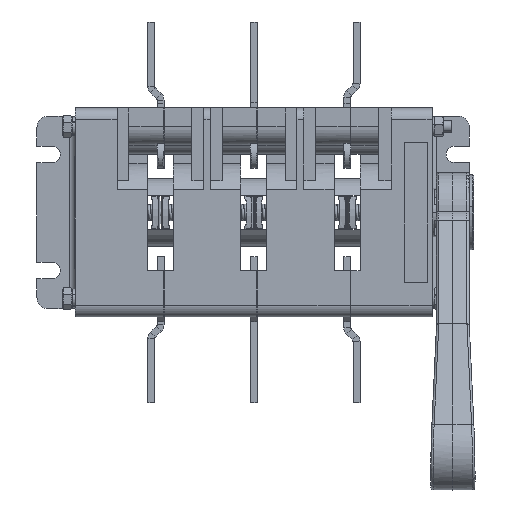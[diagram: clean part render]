
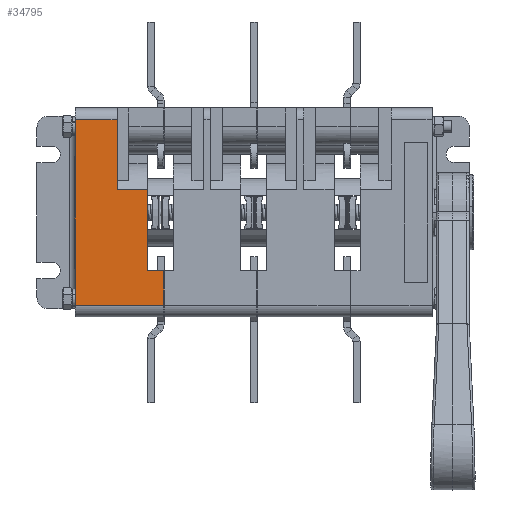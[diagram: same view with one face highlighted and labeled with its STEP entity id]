
A CAD part, front view. The second image highlights one B-rep face of the part: STEP entity #34795.
In plain terms, the highlighted planar face has unit normal (0, -1, 0) as drawn and (0, 1, 0) by its records, which use the part's own axes.
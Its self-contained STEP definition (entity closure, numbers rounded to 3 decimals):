
#428 = CARTESIAN_POINT ( 'NONE',  ( -40., 21., 5. ) ) ;
#1864 = VECTOR ( 'NONE', #20147, 1000. ) ;
#2075 = FACE_OUTER_BOUND ( 'NONE', #20584, .T. ) ;
#3616 = ORIENTED_EDGE ( 'NONE', *, *, #14981, .F. ) ;
#3878 = VECTOR ( 'NONE', #4475, 1000. ) ;
#4475 = DIRECTION ( 'NONE',  ( 0., 0., 1. ) ) ;
#4492 = EDGE_CURVE ( 'NONE', #19514, #13223, #36776, .T. ) ;
#5919 = EDGE_CURVE ( 'NONE', #19514, #40641, #12836, .T. ) ;
#6540 = EDGE_CURVE ( 'NONE', #8582, #10431, #7492, .T. ) ;
#6694 = CARTESIAN_POINT ( 'NONE',  ( 25., 21., -15. ) ) ;
#7004 = VECTOR ( 'NONE', #21099, 1000. ) ;
#7145 = LINE ( 'NONE', #32170, #22436 ) ;
#7492 = LINE ( 'NONE', #42859, #7004 ) ;
#8406 = DIRECTION ( 'NONE',  ( -1., 0., 0. ) ) ;
#8551 = VERTEX_POINT ( 'NONE', #24191 ) ;
#8582 = VERTEX_POINT ( 'NONE', #428 ) ;
#8664 = EDGE_CURVE ( 'NONE', #13219, #43694, #9323, .T. ) ;
#9303 = EDGE_CURVE ( 'NONE', #8551, #43694, #40518, .T. ) ;
#9323 = LINE ( 'NONE', #31473, #25170 ) ;
#9412 = CARTESIAN_POINT ( 'NONE',  ( 25., 21., -8. ) ) ;
#10431 = VERTEX_POINT ( 'NONE', #38340 ) ;
#11341 = CARTESIAN_POINT ( 'NONE',  ( -45., 21., 23. ) ) ;
#12337 = CARTESIAN_POINT ( 'NONE',  ( 40., 21., -15. ) ) ;
#12432 = CARTESIAN_POINT ( 'NONE',  ( 25., 21., -8. ) ) ;
#12589 = DIRECTION ( 'NONE',  ( 0., -1., 0. ) ) ;
#12836 = LINE ( 'NONE', #24691, #3878 ) ;
#12942 = LINE ( 'NONE', #6694, #1864 ) ;
#13219 = VERTEX_POINT ( 'NONE', #26422 ) ;
#13223 = VERTEX_POINT ( 'NONE', #9412 ) ;
#14268 = EDGE_CURVE ( 'NONE', #13219, #10431, #14876, .T. ) ;
#14876 = LINE ( 'NONE', #11341, #29208 ) ;
#14981 = EDGE_CURVE ( 'NONE', #8582, #40641, #7145, .T. ) ;
#18321 = AXIS2_PLACEMENT_3D ( 'NONE', #33177, #12589, #36588 ) ;
#19514 = VERTEX_POINT ( 'NONE', #43170 ) ;
#19885 = DIRECTION ( 'NONE',  ( 0., 0., -1. ) ) ;
#20147 = DIRECTION ( 'NONE',  ( 0., 0., 1. ) ) ;
#20584 = EDGE_LOOP ( 'NONE', ( #43842, #3616, #43434, #38992, #28143, #35955, #37073, #25705 ) ) ;
#20918 = VECTOR ( 'NONE', #39807, 1000. ) ;
#21099 = DIRECTION ( 'NONE',  ( 0., 0., 1. ) ) ;
#22436 = VECTOR ( 'NONE', #25497, 1000. ) ;
#24191 = CARTESIAN_POINT ( 'NONE',  ( 25., 21., -15. ) ) ;
#24691 = CARTESIAN_POINT ( 'NONE',  ( -10., 21., -8. ) ) ;
#25170 = VECTOR ( 'NONE', #19885, 1000. ) ;
#25497 = DIRECTION ( 'NONE',  ( 1., 0., 0. ) ) ;
#25705 = ORIENTED_EDGE ( 'NONE', *, *, #4492, .F. ) ;
#26422 = CARTESIAN_POINT ( 'NONE',  ( 40., 21., 23. ) ) ;
#27762 = VECTOR ( 'NONE', #36144, 1000. ) ;
#28143 = ORIENTED_EDGE ( 'NONE', *, *, #8664, .T. ) ;
#29208 = VECTOR ( 'NONE', #8406, 1000. ) ;
#31473 = CARTESIAN_POINT ( 'NONE',  ( 40., 21., 23. ) ) ;
#32170 = CARTESIAN_POINT ( 'NONE',  ( -10., 21., 5. ) ) ;
#32898 = PLANE ( 'NONE',  #18321 ) ;
#33161 = CARTESIAN_POINT ( 'NONE',  ( 40., 21., -15. ) ) ;
#33177 = CARTESIAN_POINT ( 'NONE',  ( -45., 21., 23. ) ) ;
#34795 = ADVANCED_FACE ( 'NONE', ( #2075 ), #32898, .F. ) ;
#35955 = ORIENTED_EDGE ( 'NONE', *, *, #9303, .F. ) ;
#36144 = DIRECTION ( 'NONE',  ( 1., 0., 0. ) ) ;
#36588 = DIRECTION ( 'NONE',  ( 0., 0., -1. ) ) ;
#36776 = LINE ( 'NONE', #12432, #27762 ) ;
#37073 = ORIENTED_EDGE ( 'NONE', *, *, #41378, .T. ) ;
#38340 = CARTESIAN_POINT ( 'NONE',  ( -40., 21., 23. ) ) ;
#38992 = ORIENTED_EDGE ( 'NONE', *, *, #14268, .F. ) ;
#39807 = DIRECTION ( 'NONE',  ( 1., 0., 0. ) ) ;
#40518 = LINE ( 'NONE', #33161, #20918 ) ;
#40641 = VERTEX_POINT ( 'NONE', #40916 ) ;
#40916 = CARTESIAN_POINT ( 'NONE',  ( -10., 21., 5. ) ) ;
#41378 = EDGE_CURVE ( 'NONE', #8551, #13223, #12942, .T. ) ;
#42859 = CARTESIAN_POINT ( 'NONE',  ( -40., 21., 23. ) ) ;
#43170 = CARTESIAN_POINT ( 'NONE',  ( -10., 21., -8. ) ) ;
#43434 = ORIENTED_EDGE ( 'NONE', *, *, #6540, .T. ) ;
#43694 = VERTEX_POINT ( 'NONE', #12337 ) ;
#43842 = ORIENTED_EDGE ( 'NONE', *, *, #5919, .T. ) ;
